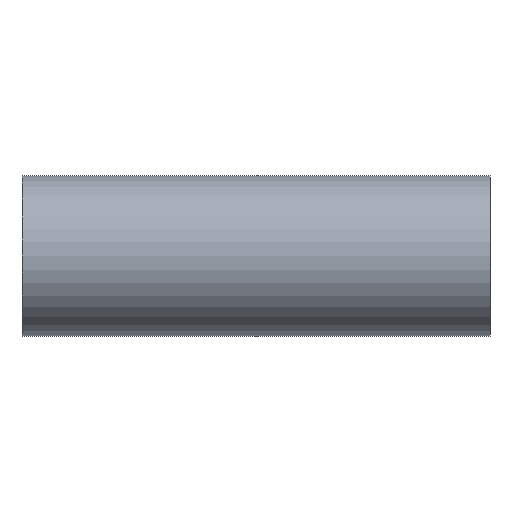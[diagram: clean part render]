
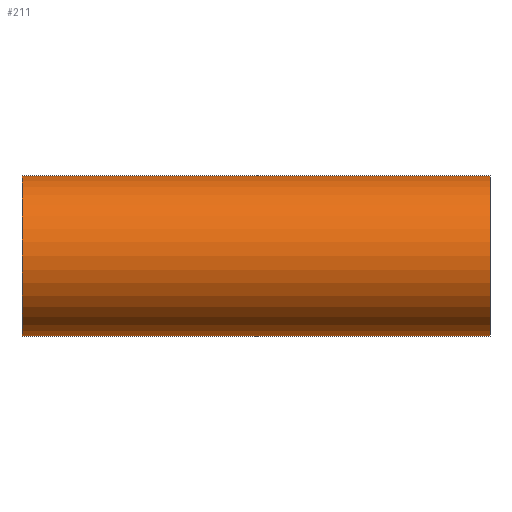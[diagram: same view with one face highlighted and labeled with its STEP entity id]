
A CAD part, front view. The second image highlights one B-rep face of the part: STEP entity #211.
In plain terms, the highlighted cylindrical face has radius 77 mm (diameter 154 mm), a full revolution.
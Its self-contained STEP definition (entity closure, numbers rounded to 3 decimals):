
#16=FACE_BOUND('',#75,.T.);
#17=FACE_BOUND('',#76,.T.);
#35=CIRCLE('',#240,77.);
#36=CIRCLE('',#241,77.);
#45=CYLINDRICAL_SURFACE('',#239,77.);
#57=FACE_OUTER_BOUND('',#74,.T.);
#74=EDGE_LOOP('',(#159));
#75=EDGE_LOOP('',(#160,#161));
#76=EDGE_LOOP('',(#162));
#99=ELLIPSE('',#228,118.444,77.);
#102=ELLIPSE('',#231,118.444,77.);
#107=VERTEX_POINT('',#1382);
#108=VERTEX_POINT('',#1384);
#111=VERTEX_POINT('',#1749);
#112=VERTEX_POINT('',#1751);
#124=EDGE_CURVE('',#107,#108,#99,.T.);
#127=EDGE_CURVE('',#108,#107,#102,.T.);
#132=EDGE_CURVE('',#111,#111,#35,.T.);
#133=EDGE_CURVE('',#112,#112,#36,.T.);
#159=ORIENTED_EDGE('',*,*,#132,.T.);
#160=ORIENTED_EDGE('',*,*,#124,.F.);
#161=ORIENTED_EDGE('',*,*,#127,.F.);
#162=ORIENTED_EDGE('',*,*,#133,.F.);
#211=ADVANCED_FACE('',(#57,#16,#17),#45,.T.);
#228=AXIS2_PLACEMENT_3D('',#1385,#268,#269);
#231=AXIS2_PLACEMENT_3D('',#1739,#274,#275);
#239=AXIS2_PLACEMENT_3D('',#1748,#290,#291);
#240=AXIS2_PLACEMENT_3D('',#1750,#292,#293);
#241=AXIS2_PLACEMENT_3D('',#1752,#294,#295);
#268=DIRECTION('center_axis',(-0.65,0.76,0.));
#269=DIRECTION('ref_axis',(0.76,0.65,0.));
#274=DIRECTION('center_axis',(0.65,0.76,0.));
#275=DIRECTION('ref_axis',(-0.76,0.65,0.));
#290=DIRECTION('center_axis',(1.,0.,0.));
#291=DIRECTION('ref_axis',(0.,-1.,0.));
#292=DIRECTION('center_axis',(-1.,0.,0.));
#293=DIRECTION('ref_axis',(0.,-1.,0.));
#294=DIRECTION('center_axis',(-1.,0.,0.));
#295=DIRECTION('ref_axis',(0.,-1.,0.));
#1382=CARTESIAN_POINT('',(225.,0.,77.));
#1384=CARTESIAN_POINT('',(225.,0.,-77.));
#1385=CARTESIAN_POINT('Origin',(225.,0.,0.));
#1739=CARTESIAN_POINT('Origin',(225.,0.,0.));
#1748=CARTESIAN_POINT('Origin',(0.,0.,0.));
#1749=CARTESIAN_POINT('',(450.,77.,0.));
#1750=CARTESIAN_POINT('Origin',(450.,0.,0.));
#1751=CARTESIAN_POINT('',(0.,77.,0.));
#1752=CARTESIAN_POINT('Origin',(0.,0.,0.));
